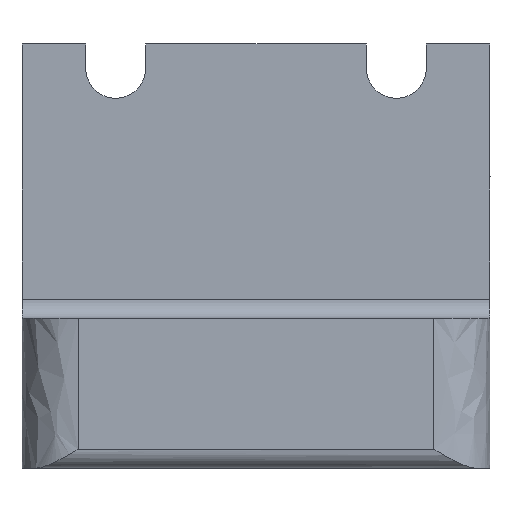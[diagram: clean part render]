
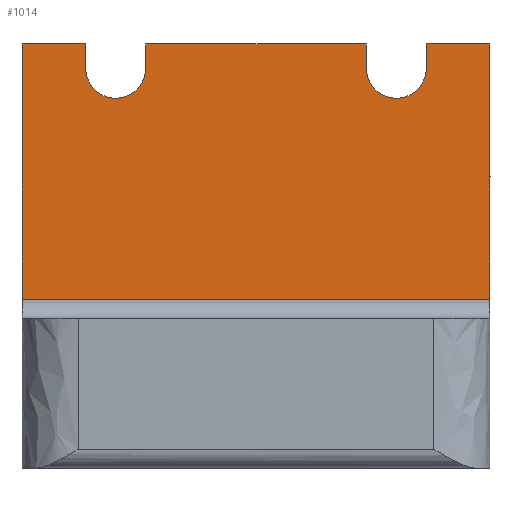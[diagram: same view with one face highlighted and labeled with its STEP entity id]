
A CAD part, left-side view. The second image highlights one B-rep face of the part: STEP entity #1014.
In plain terms, the highlighted planar face has unit normal (-1, 0, 0).
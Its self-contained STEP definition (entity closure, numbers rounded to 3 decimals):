
#1 = VECTOR ( 'NONE', #1487, 1000. ) ;
#9 = EDGE_CURVE ( 'NONE', #12, #1314, #1590, .T. ) ;
#12 = VERTEX_POINT ( 'NONE', #753 ) ;
#19 = EDGE_LOOP ( 'NONE', ( #498, #1495, #1446, #666, #249, #106, #549, #1424, #264, #1351, #1518, #1330 ) ) ;
#41 = EDGE_CURVE ( 'NONE', #1602, #1299, #723, .T. ) ;
#60 = EDGE_CURVE ( 'NONE', #849, #769, #481, .T. ) ;
#72 = FACE_OUTER_BOUND ( 'NONE', #19, .T. ) ;
#80 = PLANE ( 'NONE',  #348 ) ;
#101 = VERTEX_POINT ( 'NONE', #1266 ) ;
#102 = CARTESIAN_POINT ( 'NONE',  ( -4.75, 12.5, 0. ) ) ;
#106 = ORIENTED_EDGE ( 'NONE', *, *, #671, .F. ) ;
#170 = DIRECTION ( 'NONE',  ( 0., 1., 0. ) ) ;
#189 = CARTESIAN_POINT ( 'NONE',  ( -4.75, -12.5, 0. ) ) ;
#196 = VECTOR ( 'NONE', #500, 1000. ) ;
#215 = CIRCLE ( 'NONE', #920, 1.6 ) ;
#218 = DIRECTION ( 'NONE',  ( 0., 1., 0. ) ) ;
#229 = CARTESIAN_POINT ( 'NONE',  ( -4.75, 9.1, 0. ) ) ;
#230 = VECTOR ( 'NONE', #1252, 1000. ) ;
#239 = LINE ( 'NONE', #229, #600 ) ;
#245 = DIRECTION ( 'NONE',  ( 0., 0., 1. ) ) ;
#249 = ORIENTED_EDGE ( 'NONE', *, *, #1246, .F. ) ;
#262 = EDGE_CURVE ( 'NONE', #1314, #750, #878, .T. ) ;
#264 = ORIENTED_EDGE ( 'NONE', *, *, #1205, .F. ) ;
#299 = VECTOR ( 'NONE', #170, 1000. ) ;
#323 = CARTESIAN_POINT ( 'NONE',  ( -4.75, -12.5, -13.65 ) ) ;
#330 = CARTESIAN_POINT ( 'NONE',  ( -4.75, -12.5, 0. ) ) ;
#338 = CARTESIAN_POINT ( 'NONE',  ( -4.75, -9.1, 0. ) ) ;
#346 = LINE ( 'NONE', #330, #1095 ) ;
#348 = AXIS2_PLACEMENT_3D ( 'NONE', #1328, #1181, #451 ) ;
#357 = DIRECTION ( 'NONE',  ( -1., 0., 0. ) ) ;
#367 = CARTESIAN_POINT ( 'NONE',  ( -4.75, 5.9, 0. ) ) ;
#379 = EDGE_CURVE ( 'NONE', #928, #750, #664, .T. ) ;
#390 = DIRECTION ( 'NONE',  ( 0., 0., -1. ) ) ;
#441 = CARTESIAN_POINT ( 'NONE',  ( -4.75, 12.5, 0. ) ) ;
#451 = DIRECTION ( 'NONE',  ( 0., 0., -1. ) ) ;
#459 = DIRECTION ( 'NONE',  ( 0., 0., -1. ) ) ;
#481 = LINE ( 'NONE', #1244, #1511 ) ;
#498 = ORIENTED_EDGE ( 'NONE', *, *, #9, .F. ) ;
#500 = DIRECTION ( 'NONE',  ( 0., 0., -1. ) ) ;
#515 = CARTESIAN_POINT ( 'NONE',  ( -4.75, 5.9, -1.3 ) ) ;
#520 = VERTEX_POINT ( 'NONE', #323 ) ;
#549 = ORIENTED_EDGE ( 'NONE', *, *, #60, .T. ) ;
#583 = CARTESIAN_POINT ( 'NONE',  ( -4.75, 9.1, 0. ) ) ;
#597 = VECTOR ( 'NONE', #245, 1000. ) ;
#600 = VECTOR ( 'NONE', #1230, 1000. ) ;
#602 = CARTESIAN_POINT ( 'NONE',  ( -4.75, 9.1, -1.3 ) ) ;
#605 = EDGE_CURVE ( 'NONE', #101, #12, #748, .T. ) ;
#628 = CARTESIAN_POINT ( 'NONE',  ( -4.75, -9.1, -1.3 ) ) ;
#664 = LINE ( 'NONE', #1160, #299 ) ;
#666 = ORIENTED_EDGE ( 'NONE', *, *, #41, .F. ) ;
#671 = EDGE_CURVE ( 'NONE', #849, #1114, #239, .T. ) ;
#683 = VECTOR ( 'NONE', #459, 1000. ) ;
#697 = LINE ( 'NONE', #1084, #683 ) ;
#718 = LINE ( 'NONE', #985, #1 ) ;
#723 = LINE ( 'NONE', #1367, #597 ) ;
#739 = EDGE_CURVE ( 'NONE', #101, #1299, #346, .T. ) ;
#742 = DIRECTION ( 'NONE',  ( -1., 0., 0. ) ) ;
#748 = LINE ( 'NONE', #1622, #1359 ) ;
#750 = VERTEX_POINT ( 'NONE', #338 ) ;
#753 = CARTESIAN_POINT ( 'NONE',  ( -4.75, -5.9, -1.3 ) ) ;
#769 = VERTEX_POINT ( 'NONE', #441 ) ;
#849 = VERTEX_POINT ( 'NONE', #583 ) ;
#853 = DIRECTION ( 'NONE',  ( 0., 0., -1. ) ) ;
#870 = DIRECTION ( 'NONE',  ( 0., 0., -1. ) ) ;
#878 = LINE ( 'NONE', #1377, #230 ) ;
#920 = AXIS2_PLACEMENT_3D ( 'NONE', #976, #742, #870 ) ;
#928 = VERTEX_POINT ( 'NONE', #189 ) ;
#975 = EDGE_CURVE ( 'NONE', #928, #520, #697, .T. ) ;
#976 = CARTESIAN_POINT ( 'NONE',  ( -4.75, 7.5, -1.3 ) ) ;
#985 = CARTESIAN_POINT ( 'NONE',  ( -4.75, -12.5, -13.65 ) ) ;
#990 = CARTESIAN_POINT ( 'NONE',  ( -4.75, -7.5, -1.3 ) ) ;
#1007 = DIRECTION ( 'NONE',  ( 0., 1., 0. ) ) ;
#1014 = ADVANCED_FACE ( 'NONE', ( #72 ), #80, .F. ) ;
#1084 = CARTESIAN_POINT ( 'NONE',  ( -4.75, -12.5, 0. ) ) ;
#1095 = VECTOR ( 'NONE', #218, 1000. ) ;
#1114 = VERTEX_POINT ( 'NONE', #602 ) ;
#1160 = CARTESIAN_POINT ( 'NONE',  ( -4.75, -12.5, 0. ) ) ;
#1181 = DIRECTION ( 'NONE',  ( 1., 0., 0. ) ) ;
#1205 = EDGE_CURVE ( 'NONE', #520, #1338, #718, .T. ) ;
#1225 = AXIS2_PLACEMENT_3D ( 'NONE', #990, #357, #853 ) ;
#1226 = LINE ( 'NONE', #102, #196 ) ;
#1230 = DIRECTION ( 'NONE',  ( 0., 0., -1. ) ) ;
#1244 = CARTESIAN_POINT ( 'NONE',  ( -4.75, -12.5, 0. ) ) ;
#1246 = EDGE_CURVE ( 'NONE', #1114, #1602, #215, .T. ) ;
#1252 = DIRECTION ( 'NONE',  ( 0., 0., 1. ) ) ;
#1266 = CARTESIAN_POINT ( 'NONE',  ( -4.75, -5.9, 0. ) ) ;
#1299 = VERTEX_POINT ( 'NONE', #367 ) ;
#1314 = VERTEX_POINT ( 'NONE', #628 ) ;
#1328 = CARTESIAN_POINT ( 'NONE',  ( -4.75, -12.5, 0. ) ) ;
#1330 = ORIENTED_EDGE ( 'NONE', *, *, #262, .F. ) ;
#1338 = VERTEX_POINT ( 'NONE', #1626 ) ;
#1351 = ORIENTED_EDGE ( 'NONE', *, *, #975, .F. ) ;
#1359 = VECTOR ( 'NONE', #390, 1000. ) ;
#1367 = CARTESIAN_POINT ( 'NONE',  ( -4.75, 5.9, 0. ) ) ;
#1377 = CARTESIAN_POINT ( 'NONE',  ( -4.75, -9.1, 0. ) ) ;
#1411 = EDGE_CURVE ( 'NONE', #769, #1338, #1226, .T. ) ;
#1424 = ORIENTED_EDGE ( 'NONE', *, *, #1411, .T. ) ;
#1446 = ORIENTED_EDGE ( 'NONE', *, *, #739, .T. ) ;
#1487 = DIRECTION ( 'NONE',  ( 0., 1., 0. ) ) ;
#1495 = ORIENTED_EDGE ( 'NONE', *, *, #605, .F. ) ;
#1511 = VECTOR ( 'NONE', #1007, 1000. ) ;
#1518 = ORIENTED_EDGE ( 'NONE', *, *, #379, .T. ) ;
#1590 = CIRCLE ( 'NONE', #1225, 1.6 ) ;
#1602 = VERTEX_POINT ( 'NONE', #515 ) ;
#1622 = CARTESIAN_POINT ( 'NONE',  ( -4.75, -5.9, 0. ) ) ;
#1626 = CARTESIAN_POINT ( 'NONE',  ( -4.75, 12.5, -13.65 ) ) ;
